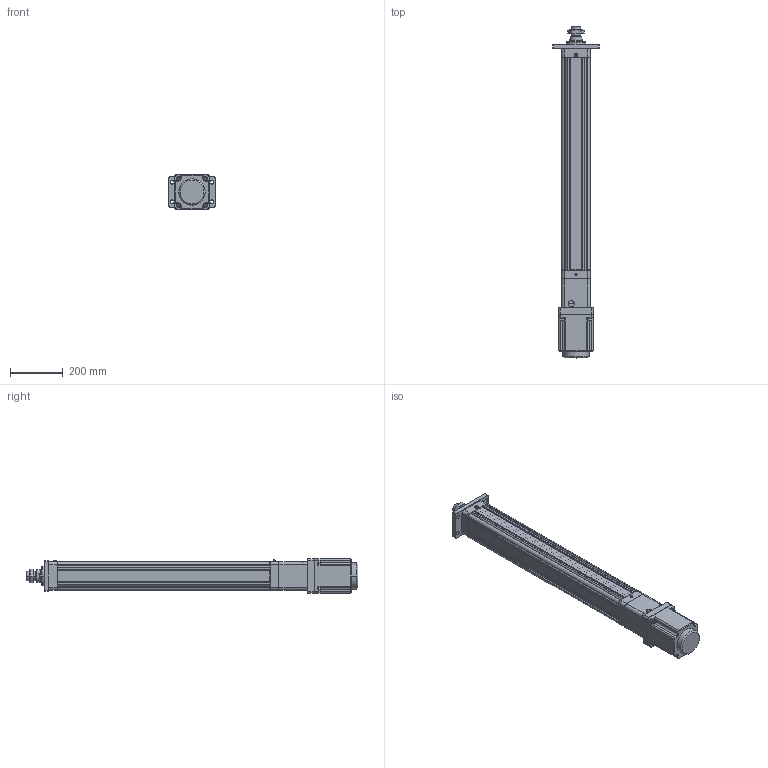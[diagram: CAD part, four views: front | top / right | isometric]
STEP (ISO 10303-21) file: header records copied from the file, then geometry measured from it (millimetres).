
FILE_DESCRIPTION((''),'2;1');
FILE_NAME('HE100-D-P_ASM','2020-04-10T',('ASUS20200'),(''),'CREO PARAMETRIC BY PTC INC, 2014190','CREO PARAMETRIC BY PTC INC, 2014190','');
FILE_SCHEMA(('CONFIG_CONTROL_DESIGN'));
Length unit declared in the file: millimetre
Products named in the file (22): HE100-D-P-001-X1; HE100-D-P-002-X1; HE100-D-P-003-X1; 30305J; JDB506030; SLM-01; YZ-M6X1; HE100-100-D-P-X1_ASM; HE100-D-009-X1; HE100-D-010-X1-130N; M8X20; 130ST-M10010; TD-8; M8X40; SKT-20; HE100-D-P-005-X1; HE100-D-P-004-X1; HE80-D-P-008-X1; LGLM-M10-25; F-SE100FA; M10X25; HE100-D-P_ASM
Assembly tree (38 placements, depth 3):
  HE100-D-P_ASM
    HE100-100-D-P-X1_ASM
      HE100-D-P-001-X1
      HE100-D-P-002-X1
      HE100-D-P-003-X1
      30305J  x2
      JDB506030
      SLM-01
      YZ-M6X1
    HE100-D-009-X1
    HE100-D-010-X1-130N
    M8X20  x4
    130ST-M10010
    TD-8  x4
    M8X40  x4
    SKT-20  x2
    HE100-D-P-005-X1
    HE100-D-P-004-X1
    HE80-D-P-008-X1
    LGLM-M10-25  x4
    F-SE100FA
    M10X25  x4
Bounding box: 176 x 1261 x 130 mm (x, y, z)
Volume: 7242617.2 mm3; surface area: 1611630 mm2
Topology: 37 solids, 60 shells, 1931 faces, 4477 edges, 2690 vertices
Faces by surface type: plane 680, cylinder 561, cone 558, torus 98, sphere 30, bspline 4
Entity records: 45157 total; most frequent: CARTESIAN_POINT 8684, DIRECTION 8050, ORIENTED_EDGE 7040, EDGE_CURVE 3563, AXIS2_PLACEMENT_3D 3088, VERTEX_POINT 2146, VECTOR 1874, LINE 1874
